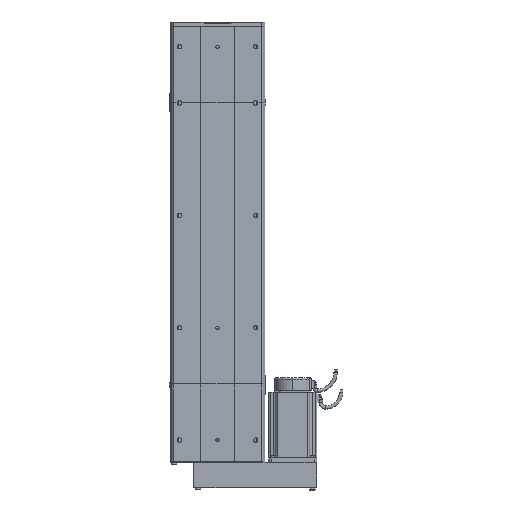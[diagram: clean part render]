
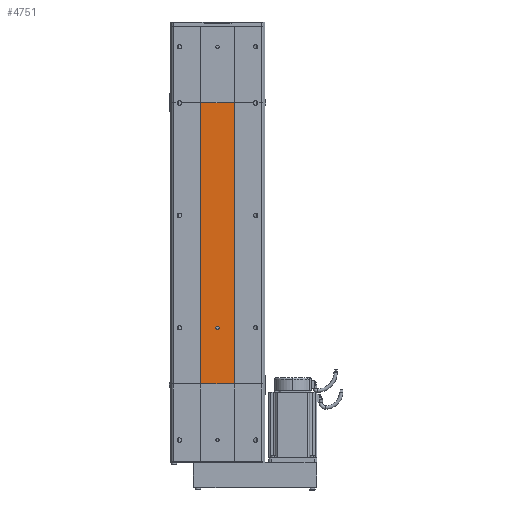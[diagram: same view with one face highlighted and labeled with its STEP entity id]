
A CAD part, front view. The second image highlights one B-rep face of the part: STEP entity #4751.
In plain terms, the highlighted planar face has unit normal (0, -1, 0).
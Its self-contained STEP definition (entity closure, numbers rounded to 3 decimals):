
#4738 = ORIENTED_EDGE ( 'NONE', *, *, #5119, .F. ) ;
#4740 = EDGE_LOOP ( 'NONE', ( #4738, #5036 ) ) ;
#4743 = EDGE_CURVE ( 'NONE', #27287, #7742, #52513, .T. ) ;
#4751 = ADVANCED_FACE ( 'NONE', ( #52491, #52490 ), #52495, .F. ) ;
#5016 = EDGE_CURVE ( 'NONE', #27188, #7917, #53302, .T. ) ;
#5036 = ORIENTED_EDGE ( 'NONE', *, *, #8024, .F. ) ;
#5039 = ORIENTED_EDGE ( 'NONE', *, *, #4743, .F. ) ;
#5066 = ORIENTED_EDGE ( 'NONE', *, *, #5016, .T. ) ;
#5091 = EDGE_LOOP ( 'NONE', ( #5096, #5039, #5093, #5066 ) ) ;
#5093 = ORIENTED_EDGE ( 'NONE', *, *, #27192, .F. ) ;
#5096 = ORIENTED_EDGE ( 'NONE', *, *, #7920, .T. ) ;
#5119 = EDGE_CURVE ( 'NONE', #8038, #8034, #53473, .T. ) ;
#7742 = VERTEX_POINT ( 'NONE', #60143 ) ;
#7917 = VERTEX_POINT ( 'NONE', #60485 ) ;
#7920 = EDGE_CURVE ( 'NONE', #7917, #7742, #60536, .T. ) ;
#8024 = EDGE_CURVE ( 'NONE', #8034, #8038, #36403, .T. ) ;
#8034 = VERTEX_POINT ( 'NONE', #36431 ) ;
#8038 = VERTEX_POINT ( 'NONE', #36416 ) ;
#27188 = VERTEX_POINT ( 'NONE', #70326 ) ;
#27192 = EDGE_CURVE ( 'NONE', #27188, #27287, #70314, .T. ) ;
#27287 = VERTEX_POINT ( 'NONE', #70668 ) ;
#36382 = DIRECTION ( 'NONE',  ( 0., 0., -1. ) ) ;
#36383 = DIRECTION ( 'NONE',  ( 0., -1., 0. ) ) ;
#36384 = CARTESIAN_POINT ( 'NONE',  ( 0., -32.5, 100. ) ) ;
#36385 = AXIS2_PLACEMENT_3D ( 'NONE', #36384, #36383, #36382 ) ;
#36403 = CIRCLE ( 'NONE', #36385, 3. ) ;
#36416 = CARTESIAN_POINT ( 'NONE',  ( 0., -32.5, 97. ) ) ;
#36431 = CARTESIAN_POINT ( 'NONE',  ( 0., -32.5, 103. ) ) ;
#52488 = DIRECTION ( 'NONE',  ( 0., 1., 0. ) ) ;
#52490 = FACE_OUTER_BOUND ( 'NONE', #5091, .T. ) ;
#52491 = FACE_BOUND ( 'NONE', #4740, .T. ) ;
#52494 = CARTESIAN_POINT ( 'NONE',  ( -30., -32.5, 0. ) ) ;
#52495 = PLANE ( 'NONE',  #52514 ) ;
#52506 = DIRECTION ( 'NONE',  ( 0., 0., 1. ) ) ;
#52507 = VECTOR ( 'NONE', #52506, 1000. ) ;
#52512 = CARTESIAN_POINT ( 'NONE',  ( -30., -32.5, 0. ) ) ;
#52513 = LINE ( 'NONE', #52512, #52507 ) ;
#52514 = AXIS2_PLACEMENT_3D ( 'NONE', #52494, #52488, #52546 ) ;
#52546 = DIRECTION ( 'NONE',  ( 0., 0., 1. ) ) ;
#53299 = DIRECTION ( 'NONE',  ( 0., 0., 1. ) ) ;
#53300 = VECTOR ( 'NONE', #53299, 1000. ) ;
#53301 = CARTESIAN_POINT ( 'NONE',  ( 30., -32.5, 0. ) ) ;
#53302 = LINE ( 'NONE', #53301, #53300 ) ;
#53465 = DIRECTION ( 'NONE',  ( 0., 0., -1. ) ) ;
#53466 = DIRECTION ( 'NONE',  ( 0., -1., 0. ) ) ;
#53467 = CARTESIAN_POINT ( 'NONE',  ( 0., -32.5, 100. ) ) ;
#53470 = AXIS2_PLACEMENT_3D ( 'NONE', #53467, #53466, #53465 ) ;
#53473 = CIRCLE ( 'NONE', #53470, 3. ) ;
#60143 = CARTESIAN_POINT ( 'NONE',  ( -30., -32.5, 500. ) ) ;
#60485 = CARTESIAN_POINT ( 'NONE',  ( 30., -32.5, 500. ) ) ;
#60533 = DIRECTION ( 'NONE',  ( -1., 0., 0. ) ) ;
#60534 = VECTOR ( 'NONE', #60533, 1000. ) ;
#60535 = CARTESIAN_POINT ( 'NONE',  ( -30., -32.5, 500. ) ) ;
#60536 = LINE ( 'NONE', #60535, #60534 ) ;
#70311 = DIRECTION ( 'NONE',  ( -1., 0., 0. ) ) ;
#70312 = VECTOR ( 'NONE', #70311, 1000. ) ;
#70313 = CARTESIAN_POINT ( 'NONE',  ( -30., -32.5, 0. ) ) ;
#70314 = LINE ( 'NONE', #70313, #70312 ) ;
#70326 = CARTESIAN_POINT ( 'NONE',  ( 30., -32.5, 0. ) ) ;
#70668 = CARTESIAN_POINT ( 'NONE',  ( -30., -32.5, 0. ) ) ;
